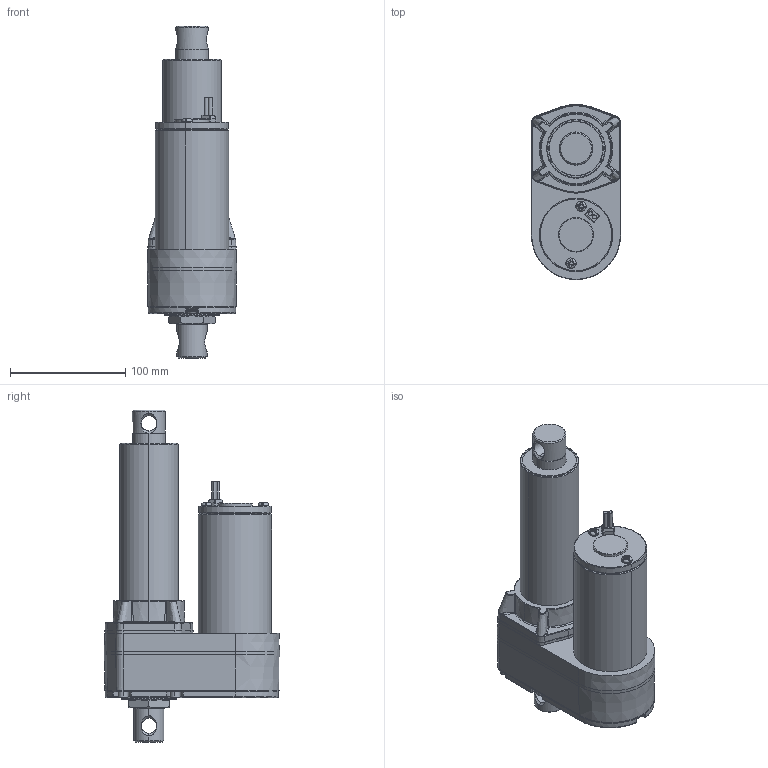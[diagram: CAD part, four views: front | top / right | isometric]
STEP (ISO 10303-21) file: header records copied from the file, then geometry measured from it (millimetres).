
FILE_DESCRIPTION (( 'STEP AP203' ), '1' );
FILE_NAME ('ID10-A-102-IP69K.STEP', '2022-10-04T09:14:36', ( '' ), ( '' ), 'SwSTEP 2.0', 'SolidWorks 2020', '' );
FILE_SCHEMA (( 'CONFIG_CONTROL_DESIGN' ));
Length unit declared in the file: millimetre
Products named in the file (3): ID10-A-1; ID10-A-2; ID10-A-102-IP69K
Assembly tree (2 placements, depth 2):
  ID10-A-102-IP69K
    ID10-A-1
    ID10-A-2
Bounding box: 77.3 x 151.8 x 287.5 mm (x, y, z)
Volume: 1347716.4 mm3; surface area: 148162.6 mm2
Topology: 2 solids, 23 shells, 1535 faces, 3722 edges, 2255 vertices
Faces by surface type: plane 700, cylinder 389, bspline 196, cone 137, torus 89, sphere 24
Entity records: 53554 total; most frequent: CARTESIAN_POINT 20128, ORIENTED_EDGE 7376, DIRECTION 6544, EDGE_CURVE 3688, AXIS2_PLACEMENT_3D 2593, VERTEX_POINT 2255, EDGE_LOOP 1611, FACE_OUTER_BOUND 1535
